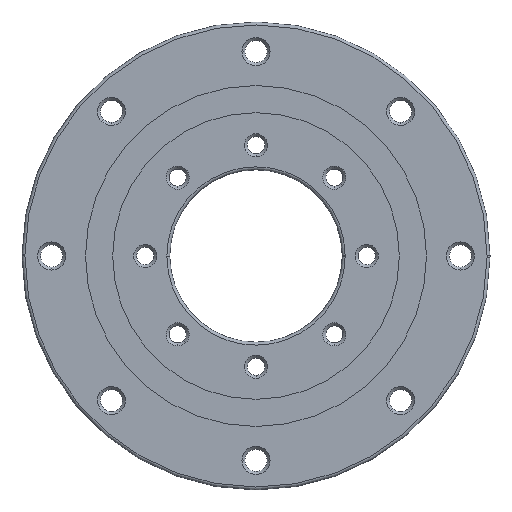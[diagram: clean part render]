
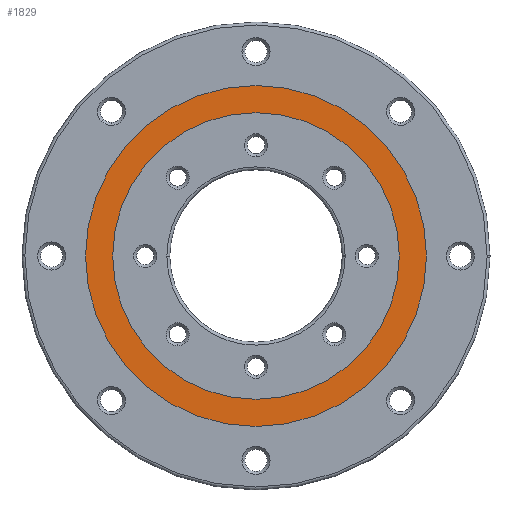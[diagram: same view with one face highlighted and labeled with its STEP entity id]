
A CAD part, front view. The second image highlights one B-rep face of the part: STEP entity #1829.
In plain terms, the highlighted planar face has unit normal (0, -1, 0).
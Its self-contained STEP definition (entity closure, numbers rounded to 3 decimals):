
#1829=ADVANCED_FACE('',(#4953,#4954),#4955,.F.);
#1967=VERTEX_POINT('',#5108);
#2047=EDGE_CURVE('',#4579,#3101,#5193,.T.);
#2137=EDGE_CURVE('',#3101,#4579,#5290,.T.);
#2579=EDGE_CURVE('',#3971,#1967,#5781,.T.);
#3081=EDGE_CURVE('',#1967,#3971,#6351,.T.);
#3101=VERTEX_POINT('',#6375);
#3971=VERTEX_POINT('',#7377);
#4579=VERTEX_POINT('',#8068);
#4953=FACE_OUTER_BOUND('',#8528,.T.);
#4954=FACE_BOUND('',#8529,.T.);
#4955=PLANE('',#8530);
#5108=CARTESIAN_POINT('',(34.6,0.0,0.0));
#5193=CIRCLE('',#8831,29.1);
#5290=CIRCLE('',#8965,29.1);
#5781=CIRCLE('',#9594,34.6);
#6351=CIRCLE('',#10300,34.6);
#6375=CARTESIAN_POINT('',(-29.1,0.0,0.0));
#7377=CARTESIAN_POINT('',(-34.6,0.0,0.0));
#8068=CARTESIAN_POINT('',(29.1,0.0,0.0));
#8528=EDGE_LOOP('',(#12868,#12869));
#8529=EDGE_LOOP('',(#12870,#12871));
#8530=AXIS2_PLACEMENT_3D('',#12872,#12873,#12874);
#8831=AXIS2_PLACEMENT_3D('',#13146,#13147,#13148);
#8965=AXIS2_PLACEMENT_3D('',#13264,#13265,#13266);
#9594=AXIS2_PLACEMENT_3D('',#13913,#13914,#13915);
#10300=AXIS2_PLACEMENT_3D('',#14687,#14688,#14689);
#12868=ORIENTED_EDGE('',*,*,#2579,.F.);
#12869=ORIENTED_EDGE('',*,*,#3081,.F.);
#12870=ORIENTED_EDGE('',*,*,#2137,.F.);
#12871=ORIENTED_EDGE('',*,*,#2047,.F.);
#12872=CARTESIAN_POINT('',(0.0,0.0,0.0));
#12873=DIRECTION('',(0.0,1.0,0.0));
#12874=DIRECTION('',(1.0,0.0,-0.0));
#13146=CARTESIAN_POINT('',(0.0,0.0,0.0));
#13147=DIRECTION('',(0.0,-1.0,0.0));
#13148=DIRECTION('',(1.0,0.0,0.0));
#13264=CARTESIAN_POINT('',(0.0,0.0,0.0));
#13265=DIRECTION('',(0.0,-1.0,0.0));
#13266=DIRECTION('',(-1.0,0.0,0.0));
#13913=CARTESIAN_POINT('',(0.0,0.0,0.0));
#13914=DIRECTION('',(0.0,1.0,0.0));
#13915=DIRECTION('',(-1.0,0.0,0.0));
#14687=CARTESIAN_POINT('',(0.0,0.0,0.0));
#14688=DIRECTION('',(-0.0,1.0,0.0));
#14689=DIRECTION('',(1.0,0.0,0.0));
